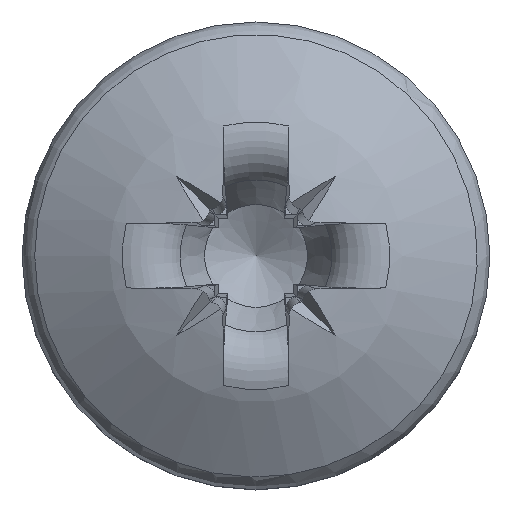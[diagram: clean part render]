
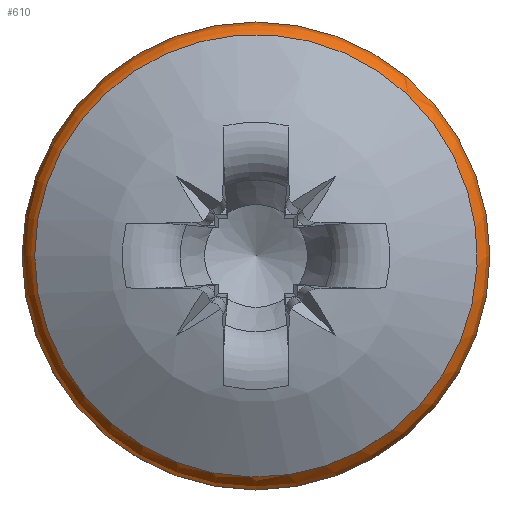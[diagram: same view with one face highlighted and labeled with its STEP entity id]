
A CAD part, top view. The second image highlights one B-rep face of the part: STEP entity #610.
In plain terms, the highlighted toroidal (fillet/blend) face has major radius 2.643 mm and minor radius 0.407 mm.
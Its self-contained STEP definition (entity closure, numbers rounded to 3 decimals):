
#516=TOROIDAL_SURFACE('',#2830,2.643,0.407);
#532=FACE_BOUND('',#964,.T.);
#533=FACE_BOUND('',#965,.T.);
#610=ADVANCED_FACE('',(#532,#533),#516,.T.);
#964=EDGE_LOOP('',(#1481));
#965=EDGE_LOOP('',(#1482));
#1076=CIRCLE('',#2715,2.885);
#1101=CIRCLE('',#2745,3.05);
#1481=ORIENTED_EDGE('',*,*,#2229,.F.);
#1482=ORIENTED_EDGE('',*,*,#2188,.F.);
#1955=VERTEX_POINT('',#5587);
#1994=VERTEX_POINT('',#5819);
#2188=EDGE_CURVE('',#1955,#1955,#1076,.T.);
#2229=EDGE_CURVE('',#1994,#1994,#1101,.T.);
#2715=AXIS2_PLACEMENT_3D('',#5586,#2848,#2849);
#2745=AXIS2_PLACEMENT_3D('',#5818,#2909,#2910);
#2830=AXIS2_PLACEMENT_3D('',#6250,#3139,#3140);
#2848=DIRECTION('',(0.,0.,1.));
#2849=DIRECTION('',(-1.,0.,0.));
#2909=DIRECTION('',(0.,0.,-1.));
#2910=DIRECTION('',(-1.,0.,0.));
#3139=DIRECTION('',(0.,0.,-1.));
#3140=DIRECTION('',(-1.,0.,0.));
#5586=CARTESIAN_POINT('',(0.,0.,1.747));
#5587=CARTESIAN_POINT('',(-2.885,0.,1.747));
#5818=CARTESIAN_POINT('',(0.,0.,1.421));
#5819=CARTESIAN_POINT('',(-3.05,0.,1.421));
#6250=CARTESIAN_POINT('',(0.,0.,1.421));
